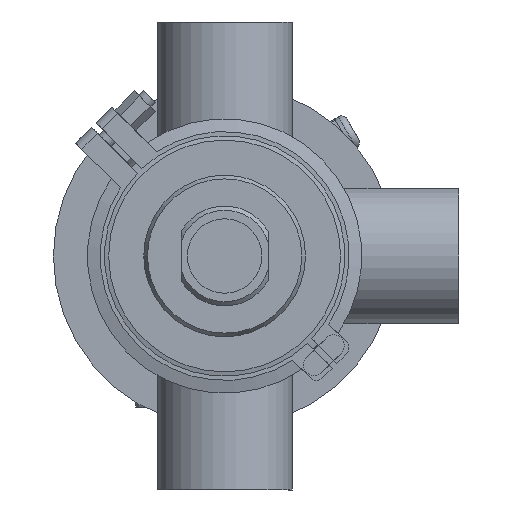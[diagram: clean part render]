
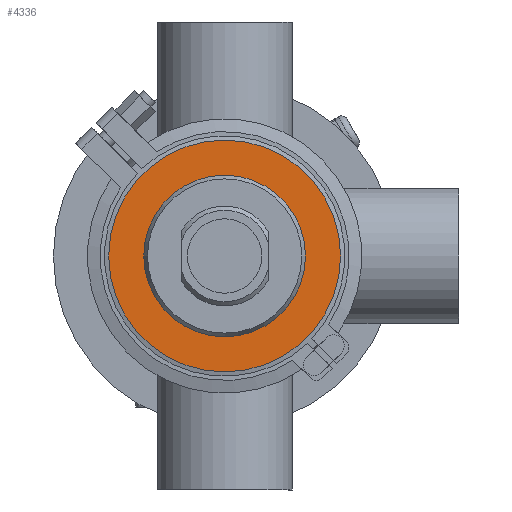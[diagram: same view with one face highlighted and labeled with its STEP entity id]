
A CAD part, front view. The second image highlights one B-rep face of the part: STEP entity #4336.
In plain terms, the highlighted planar face has unit normal (0, -1, 0).
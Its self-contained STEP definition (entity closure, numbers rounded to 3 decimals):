
#172 = EDGE_CURVE ( 'NONE', #55311, #55311, #38110, .T. ) ;
#665 = CARTESIAN_POINT ( 'NONE',  ( 0., -13., 0. ) ) ;
#2466 = FACE_BOUND ( 'NONE', #56119, .T. ) ;
#4336 = ADVANCED_FACE ( 'NONE', ( #2466, #37041 ), #41511, .T. ) ;
#12844 = VERTEX_POINT ( 'NONE', #41681 ) ;
#15101 = DIRECTION ( 'NONE',  ( 0., 1., 0. ) ) ;
#15410 = DIRECTION ( 'NONE',  ( 0., 0., 1. ) ) ;
#16859 = DIRECTION ( 'NONE',  ( 0., 0., -1. ) ) ;
#17132 = CARTESIAN_POINT ( 'NONE',  ( 0., -13., 54.5 ) ) ;
#20284 = ORIENTED_EDGE ( 'NONE', *, *, #23188, .T. ) ;
#21169 = DIRECTION ( 'NONE',  ( 0., 0., 1. ) ) ;
#23188 = EDGE_CURVE ( 'NONE', #12844, #12844, #53695, .T. ) ;
#37041 = FACE_OUTER_BOUND ( 'NONE', #63086, .T. ) ;
#38110 = CIRCLE ( 'NONE', #42209, 54.5 ) ;
#38283 = AXIS2_PLACEMENT_3D ( 'NONE', #665, #40709, #15410 ) ;
#40053 = CARTESIAN_POINT ( 'NONE',  ( 0., -13., 0. ) ) ;
#40709 = DIRECTION ( 'NONE',  ( 0., 1., 0. ) ) ;
#41511 = PLANE ( 'NONE',  #52824 ) ;
#41681 = CARTESIAN_POINT ( 'NONE',  ( 0., -13., 38. ) ) ;
#42209 = AXIS2_PLACEMENT_3D ( 'NONE', #40053, #15101, #21169 ) ;
#52824 = AXIS2_PLACEMENT_3D ( 'NONE', #60817, #56643, #16859 ) ;
#53695 = CIRCLE ( 'NONE', #38283, 38. ) ;
#54759 = ORIENTED_EDGE ( 'NONE', *, *, #172, .F. ) ;
#55311 = VERTEX_POINT ( 'NONE', #17132 ) ;
#56119 = EDGE_LOOP ( 'NONE', ( #20284 ) ) ;
#56643 = DIRECTION ( 'NONE',  ( 0., -1., 0. ) ) ;
#60817 = CARTESIAN_POINT ( 'NONE',  ( -54.5, -13., 0. ) ) ;
#63086 = EDGE_LOOP ( 'NONE', ( #54759 ) ) ;
